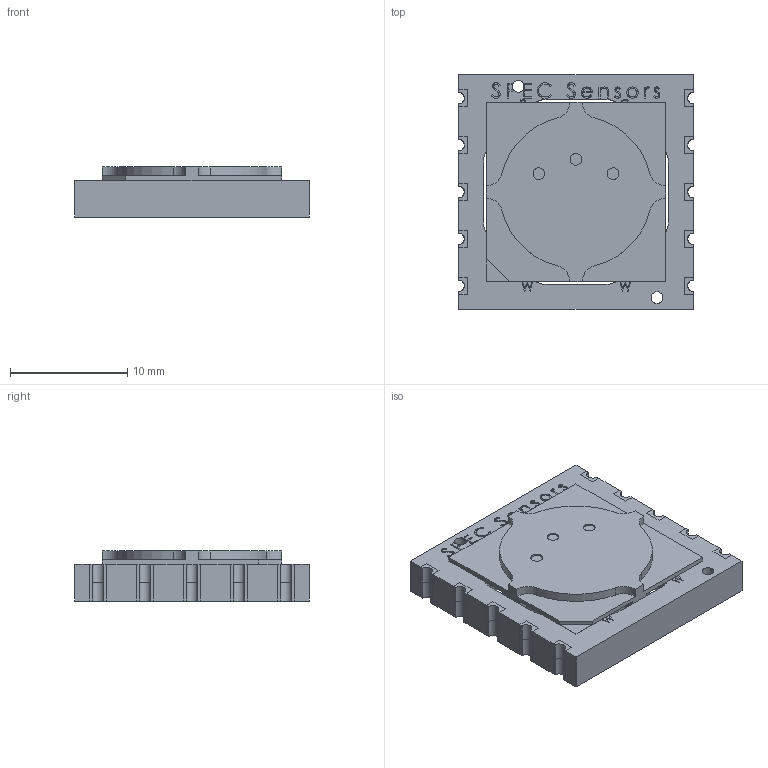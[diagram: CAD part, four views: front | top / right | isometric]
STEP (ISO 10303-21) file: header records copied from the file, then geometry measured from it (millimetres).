
FILE_DESCRIPTION (( 'STEP AP214' ), '1' );
FILE_NAME ('110-116 STEP.STEP', '2023-06-22T22:21:17', ( '' ), ( '' ), 'SwSTEP 2.0', 'SolidWorks 2017', '' );
FILE_SCHEMA (( 'AUTOMOTIVE_DESIGN' ));
Length unit declared in the file: millimetre
Products named in the file (4): Zebra Barcode; 100-110 STEP; 110-116 STEP; 981-013
Assembly tree (3 placements, depth 2):
  110-116 STEP
    100-110 STEP
    Zebra Barcode
    981-013
Bounding box: 20.01 x 20 x 4.27 mm (x, y, z)
Volume: 1177.5 mm3; surface area: 2178.9 mm2
Topology: 32 solids, 32 shells, 599 faces, 1600 edges, 1072 vertices
Faces by surface type: plane 366, bspline 123, cylinder 110
Full cylindrical faces by diameter (mm): 0.75 x24, 1 x13, 12 x1
Entity records: 28057 total; most frequent: CARTESIAN_POINT 9386, ORIENTED_EDGE 3092, DIRECTION 2484, EDGE_CURVE 1546, LINE 1080, VECTOR 1080, VERTEX_POINT 1056, EDGE_LOOP 720
